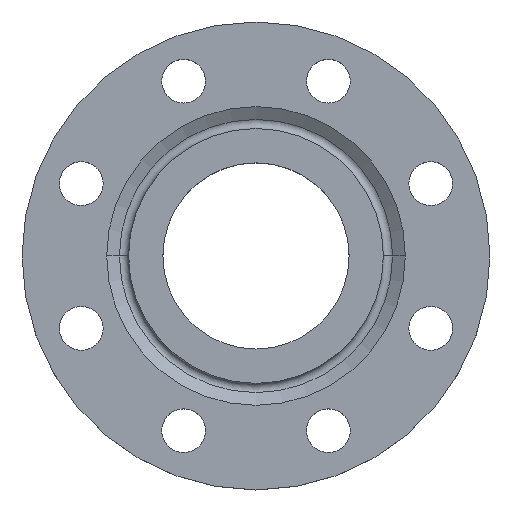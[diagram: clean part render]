
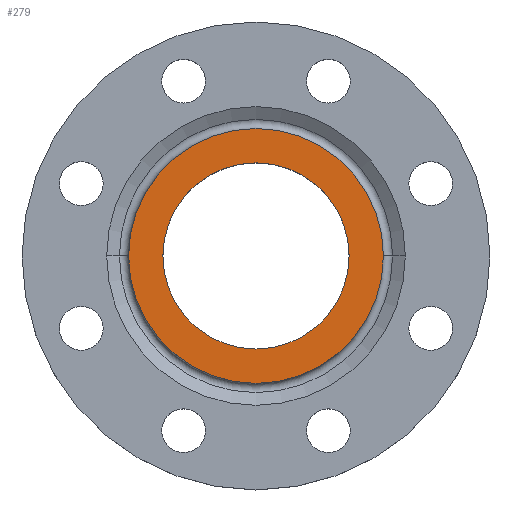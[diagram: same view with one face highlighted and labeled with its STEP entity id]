
A CAD part, top view. The second image highlights one B-rep face of the part: STEP entity #279.
In plain terms, the highlighted planar face has unit normal (0, 0, 1).
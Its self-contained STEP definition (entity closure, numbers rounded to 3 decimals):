
#38 = DIRECTION ( 'NONE',  ( 1., 0., 0. ) ) ;
#40 = DIRECTION ( 'NONE',  ( 0., 0., 1. ) ) ;
#41 = CARTESIAN_POINT ( 'NONE',  ( 0., 0., 0. ) ) ;
#66 = EDGE_CURVE ( 'NONE', #1058, #903, #605, .T. ) ;
#137 = DIRECTION ( 'NONE',  ( -1., 0., 0. ) ) ;
#138 = DIRECTION ( 'NONE',  ( 0., 0., -1. ) ) ;
#141 = CARTESIAN_POINT ( 'NONE',  ( 0., 0., 0. ) ) ;
#229 = AXIS2_PLACEMENT_3D ( 'NONE', #630, #631, #633 ) ;
#268 = AXIS2_PLACEMENT_3D ( 'NONE', #41, #40, #38 ) ;
#279 = ADVANCED_FACE ( 'NONE', ( #418, #439 ), #420, .T. ) ;
#285 = DIRECTION ( 'NONE',  ( 0., 0., 1. ) ) ;
#288 = CIRCLE ( 'NONE', #268, 46.753 ) ;
#294 = CARTESIAN_POINT ( 'NONE',  ( -46.753, 0., 0. ) ) ;
#393 = CARTESIAN_POINT ( 'NONE',  ( 64., 0., 0. ) ) ;
#418 = FACE_BOUND ( 'NONE', #829, .T. ) ;
#420 = PLANE ( 'NONE',  #475 ) ;
#424 = DIRECTION ( 'NONE',  ( 0., 0., 1. ) ) ;
#430 = DIRECTION ( 'NONE',  ( 1., 0., 0. ) ) ;
#439 = FACE_OUTER_BOUND ( 'NONE', #850, .T. ) ;
#444 = CARTESIAN_POINT ( 'NONE',  ( 0., 0., 0. ) ) ;
#475 = AXIS2_PLACEMENT_3D ( 'NONE', #444, #424, #430 ) ;
#544 = CARTESIAN_POINT ( 'NONE',  ( -64., 0., 0. ) ) ;
#545 = VERTEX_POINT ( 'NONE', #294 ) ;
#605 = CIRCLE ( 'NONE', #229, 64. ) ;
#630 = CARTESIAN_POINT ( 'NONE',  ( 0., 0., 0. ) ) ;
#631 = DIRECTION ( 'NONE',  ( 0., 0., -1. ) ) ;
#633 = DIRECTION ( 'NONE',  ( -1., 0., 0. ) ) ;
#655 = AXIS2_PLACEMENT_3D ( 'NONE', #1000, #285, #680 ) ;
#665 = CIRCLE ( 'NONE', #655, 46.753 ) ;
#680 = DIRECTION ( 'NONE',  ( 1., 0., 0. ) ) ;
#691 = AXIS2_PLACEMENT_3D ( 'NONE', #141, #138, #137 ) ;
#692 = CIRCLE ( 'NONE', #691, 64. ) ;
#737 = EDGE_CURVE ( 'NONE', #903, #1058, #692, .T. ) ;
#779 = CARTESIAN_POINT ( 'NONE',  ( 46.753, 0., 0. ) ) ;
#789 = EDGE_CURVE ( 'NONE', #815, #545, #288, .T. ) ;
#815 = VERTEX_POINT ( 'NONE', #779 ) ;
#829 = EDGE_LOOP ( 'NONE', ( #1029, #1032 ) ) ;
#850 = EDGE_LOOP ( 'NONE', ( #1034, #1037 ) ) ;
#903 = VERTEX_POINT ( 'NONE', #544 ) ;
#1000 = CARTESIAN_POINT ( 'NONE',  ( 0., 0., 0. ) ) ;
#1029 = ORIENTED_EDGE ( 'NONE', *, *, #789, .F. ) ;
#1032 = ORIENTED_EDGE ( 'NONE', *, *, #1036, .F. ) ;
#1034 = ORIENTED_EDGE ( 'NONE', *, *, #737, .F. ) ;
#1036 = EDGE_CURVE ( 'NONE', #545, #815, #665, .T. ) ;
#1037 = ORIENTED_EDGE ( 'NONE', *, *, #66, .F. ) ;
#1058 = VERTEX_POINT ( 'NONE', #393 ) ;
